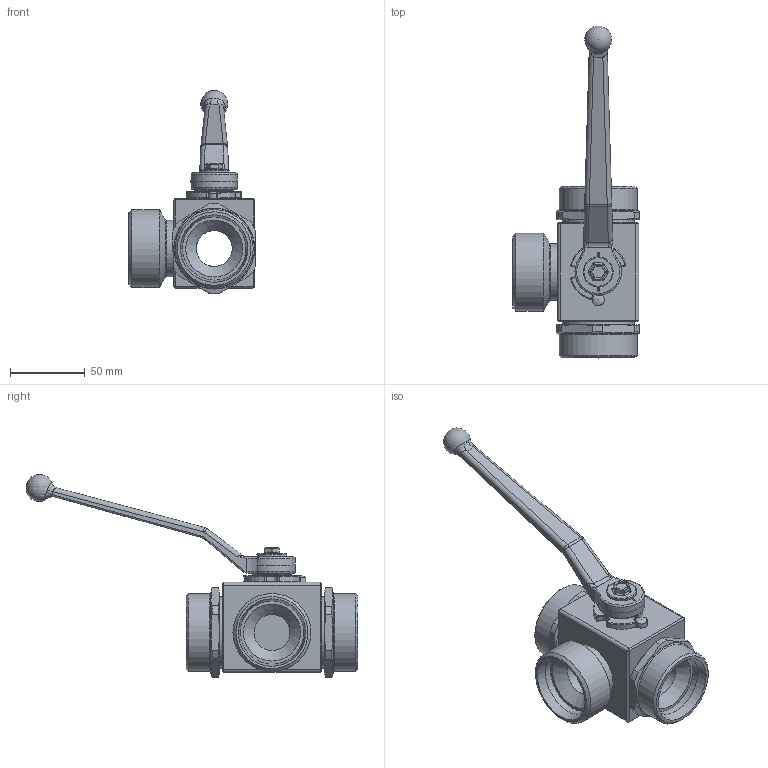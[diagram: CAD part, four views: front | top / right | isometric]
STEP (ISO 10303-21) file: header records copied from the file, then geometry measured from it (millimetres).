
FILE_DESCRIPTION( ( 'Unknown' ), '1' );
FILE_NAME( 'H:/PISTER/3D-MODELLE/BK3 stp/BK3 DN25 42L.stp', 'Unknown', ( 'Unknown' ), ( 'Unknown' ), 'PSStep 14.0', 'Unknown', ' ' );
FILE_SCHEMA( ( 'AUTOMOTIVE_DESIGN { 1 0 10303 214 1 1 1 1 }' ) );
Length unit declared in the file: millimetre
Products named in the file (11): Assem1; 10-025-001; 06-025-186-oa7; 09-14-001; 58-28740-13-oa8; Griff_SW14; 58-0933-147; 04-025-158-oa9; 04-025-158-oa10; 01-025-024-oa11; 04-025-147-oa12
Assembly tree (10 placements, depth 2):
  Assem1
    10-025-001
    06-025-186-oa7
    09-14-001
    58-28740-13-oa8
    Griff_SW14
    58-0933-147
    04-025-158-oa9
    04-025-158-oa10
    01-025-024-oa11
    04-025-147-oa12
Bounding box: 84.37 x 221.18 x 135.39 mm (x, y, z)
Volume: 141680.4 mm3; surface area: 78684.8 mm2
Topology: 10 solids, 10 shells, 379 faces, 934 edges, 573 vertices
Faces by surface type: plane 135, cylinder 129, torus 47, bspline 28, cone 26, sphere 14
Full cylindrical faces by diameter (mm): 5 x1, 6 x1, 6.5 x1, 7.98 x1, 20 x3, 20.2 x1, 24 x3, 25 x1, 37.9 x1, 38 x1, 42.3 x3, 43.3 x2, 48 x2, 50 x2, 51 x2, 52 x3
Entity records: 15274 total; most frequent: CARTESIAN_POINT 3618, DIRECTION 1851, ORIENTED_EDGE 1632, EDGE_CURVE 816, AXIS2_PLACEMENT_3D 761, VERTEX_POINT 541, EDGE_LOOP 482, FACE_OUTER_BOUND 423
